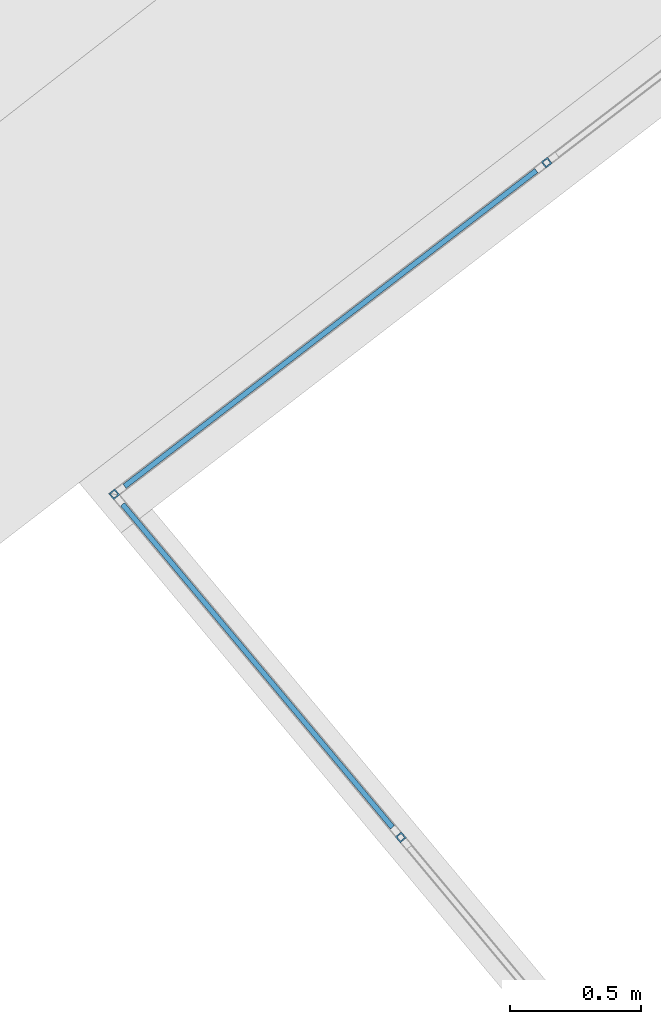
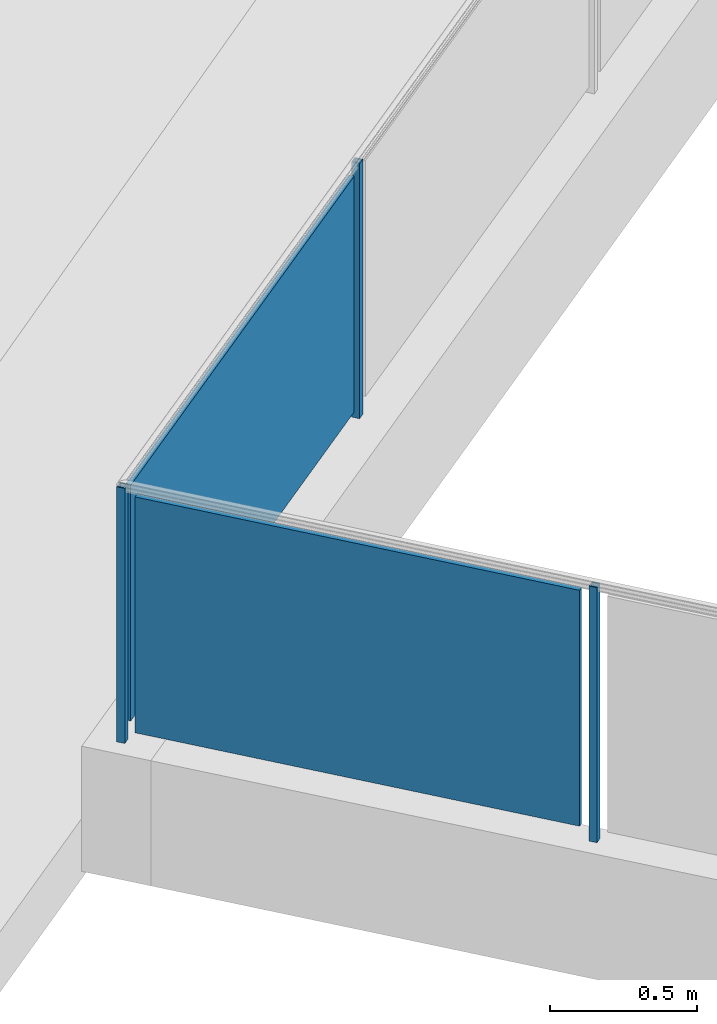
# One storey, part 42 of 75: 5 building element parts, 1 element without a shape of its own.
"""IFC4 building model written with IfcOpenShell, lengths in metres."""

from ifc_helpers import new_model, entity, si_unit, converted_unit, derived_unit, direction, frame, origin_with_axes, place, context, subcontext, project, spatial, polygons, material, type_object, element, aggregate, save


model = new_model("IFC4")

# Units and contexts
model_context = context("Model", 3, precision=1e-05, world=origin_with_axes(), true_north=direction((0.0, 1.0)))
body_context = subcontext(model_context, "Body", "Model", "MODEL_VIEW")
ifc_project = project(units=[si_unit("LENGTHUNIT", "METRE"), si_unit("AREAUNIT", "SQUARE_METRE"), si_unit("VOLUMEUNIT", "CUBIC_METRE"), converted_unit("PLANEANGLEUNIT", "DEGREE", entity("IfcPlaneAngleMeasure", 0.0174532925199), si_unit("PLANEANGLEUNIT", "RADIAN"), dimensions=[0, 0, 0, 0, 0, 0, 0]), converted_unit("TIMEUNIT", "Year", entity("IfcTimeMeasure", 31556926.0), si_unit("TIMEUNIT", "SECOND"), dimensions=[0, 0, 1, 0, 0, 0, 0]), si_unit("MASSUNIT", "GRAM", prefix="KILO"), si_unit("THERMODYNAMICTEMPERATUREUNIT", "DEGREE_CELSIUS"), si_unit("LUMINOUSINTENSITYUNIT", "LUMEN"), si_unit("ENERGYUNIT", "JOULE", prefix="MEGA"), derived_unit("THERMALCONDUCTANCEUNIT", [(si_unit("POWERUNIT", "WATT"), 1), (si_unit("LENGTHUNIT", "METRE"), -1), (si_unit("THERMODYNAMICTEMPERATUREUNIT", "KELVIN"), -1)]), derived_unit("SPECIFICHEATCAPACITYUNIT", [(si_unit("ENERGYUNIT", "JOULE"), 1), (si_unit("MASSUNIT", "GRAM", prefix="KILO"), -1), (si_unit("THERMODYNAMICTEMPERATUREUNIT", "KELVIN"), -1)]), derived_unit("MASSDENSITYUNIT", [(si_unit("MASSUNIT", "GRAM", prefix="KILO"), 1), (si_unit("VOLUMEUNIT", "CUBIC_METRE"), -1)])], contexts=[model_context])

# Site, building, storey
site_placement = place(None, frame((-0.00153261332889, -0.00661245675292, 0.0), z_axis=(0.0, 0.0, 1.0), x_axis=(1.0, 0.0, 0.0)))
site = spatial("IfcSite", under=ifc_project, at=site_placement, Name="Gelände", CompositionType="ELEMENT")
building_placement = place(site_placement, origin_with_axes())
building = spatial("IfcBuilding", under=site, at=building_placement, Name="Gebäude", CompositionType="ELEMENT")
storey_placement = place(building_placement, frame((0.0, 0.0, -0.22), z_axis=(0.0, 0.0, 1.0), x_axis=(1.0, 0.0, 0.0)))
storey = spatial("IfcBuildingStorey", under=building, at=storey_placement, Name="EG", CompositionType="ELEMENT", Elevation=-0.22)

# Railing, building element parts
railing_type = type_object("IfcRailingType", Name="Geländerart", PredefinedType="NOTDEFINED")
railing_placement = place(storey_placement, frame((0.180685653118, 26.4249004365, 0.523948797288), z_axis=(0.0, 0.0, 1.0), x_axis=(1.0, 0.0, 0.0)))
railing = element("IfcRailing", 1, at=railing_placement, inside=storey, type_object=railing_type, Name="Geländer - 001", PredefinedType="NOTDEFINED")
ifc_material_1 = material(Name="Aluminium")
building_element_part_1_placement = place(railing_placement, origin_with_axes())
building_element_part_1 = element("IfcBuildingElementPart", 2, at=building_element_part_1_placement, material=ifc_material_1, Name="Aluminium", PredefinedType="NOTDEFINED", context=body_context, shape_type="Tessellation", body=[
    polygons([(-3.23242881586, 4.00997102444, 0.0), (-3.25545269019, 3.99073820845, 0.0), (-3.25545269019, 3.99073820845, 1.06), (-3.23242881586, 4.00997102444, 1.06), (-3.21319599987, 3.98694715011, 0.0), (-3.2362198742, 3.96771433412, 0.0), (-3.23306065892, 4.00292824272, 0.0), (-3.24840990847, 3.99010636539, 0.0), (-3.23558803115, 3.97475711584, 0.0), (-3.22023878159, 3.98757899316, 0.0), (-3.2362198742, 3.96771433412, 1.06), (-3.21319599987, 3.98694715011, 1.06), (-3.23306065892, 4.00292824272, 1.06), (-3.22023878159, 3.98757899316, 1.06), (-3.23558803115, 3.97475711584, 1.06), (-3.24840990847, 3.99010636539, 1.06)], [[[1, 2, 3, 4]], [[1, 5, 6, 2], [7, 8, 9, 10]], [[2, 6, 11, 3]], [[4, 3, 11, 12], [13, 14, 15, 16]], [[5, 1, 4, 12]], [[6, 5, 12, 11]], [[8, 7, 13, 16]], [[9, 8, 16, 15]], [[10, 9, 15, 14]], [[7, 10, 14, 13]]], closed=True),
])
building_element_part_2_placement = place(railing_placement, origin_with_axes())
building_element_part_2 = element("IfcBuildingElementPart", 3, at=building_element_part_2_placement, material=ifc_material_1, Name="Aluminium", PredefinedType="NOTDEFINED", context=body_context, shape_type="Tessellation", body=[
    polygons([(-2.13513413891, 2.69638414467, 0.0), (-2.15815801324, 2.67715132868, 0.0), (-2.15815801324, 2.67715132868, 1.06), (-2.13513413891, 2.69638414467, 1.06), (-2.11590132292, 2.67336027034, 0.0), (-2.13892519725, 2.65412745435, 0.0), (-2.13576598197, 2.68934136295, 0.0), (-2.15111523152, 2.67651948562, 0.0), (-2.13829335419, 2.66117023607, 0.0), (-2.12294410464, 2.6739921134, 0.0), (-2.13892519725, 2.65412745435, 1.06), (-2.11590132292, 2.67336027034, 1.06), (-2.13576598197, 2.68934136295, 1.06), (-2.12294410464, 2.6739921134, 1.06), (-2.13829335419, 2.66117023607, 1.06), (-2.15111523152, 2.67651948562, 1.06)], [[[1, 2, 3, 4]], [[1, 5, 6, 2], [7, 8, 9, 10]], [[2, 6, 11, 3]], [[4, 3, 11, 12], [13, 14, 15, 16]], [[5, 1, 4, 12]], [[6, 5, 12, 11]], [[8, 7, 13, 16]], [[9, 8, 16, 15]], [[10, 9, 15, 14]], [[7, 10, 14, 13]]], closed=True),
])
ifc_material_2 = material(Name="Zaun")
building_element_part_3_placement = place(railing_placement, origin_with_axes())
building_element_part_3 = element("IfcBuildingElementPart", 4, at=building_element_part_3_placement, material=ifc_material_2, Name="Zaun", PredefinedType="NOTDEFINED", context=body_context, shape_type="Tessellation", body=[
    polygons([(-3.20994427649, 3.94405861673, 0.05), (-2.17675898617, 2.70721798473, 0.05), (-2.17675898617, 2.70721798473, 1.03), (-3.20994427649, 3.94405861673, 1.03), (-2.16140973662, 2.72003986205, 0.05), (-3.19459502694, 3.95688049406, 0.05), (-2.16140973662, 2.72003986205, 1.03), (-3.19459502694, 3.95688049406, 1.03)], [[[1, 2, 3, 4]], [[5, 2, 1, 6]], [[7, 3, 2, 5]], [[4, 3, 7, 8]], [[1, 4, 8, 6]], [[7, 5, 6, 8]]], closed=True),
])
building_element_part_4_placement = place(railing_placement, origin_with_axes())
building_element_part_4 = element("IfcBuildingElementPart", 5, at=building_element_part_4_placement, material=ifc_material_2, Name="Zaun", PredefinedType="NOTDEFINED", context=body_context, shape_type="Tessellation", body=[
    polygons([(-1.62435176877, 5.23592927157, 0.05), (-3.20073093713, 4.02720259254, 0.05), (-3.20073093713, 4.02720259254, 1.03), (-1.62435176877, 5.23592927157, 1.03), (-3.18856123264, 4.01133128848, 0.05), (-1.61218206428, 5.22005796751, 0.05), (-3.18856123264, 4.01133128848, 1.03), (-1.61218206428, 5.22005796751, 1.03)], [[[1, 2, 3, 4]], [[5, 2, 1, 6]], [[7, 3, 2, 5]], [[4, 3, 7, 8]], [[1, 4, 8, 6]], [[7, 5, 6, 8]]], closed=True),
])
building_element_part_5_placement = place(railing_placement, origin_with_axes())
building_element_part_5 = element("IfcBuildingElementPart", 6, at=building_element_part_5_placement, material=ifc_material_1, Name="Aluminium", PredefinedType="NOTDEFINED", context=body_context, shape_type="Tessellation", body=[
    polygons([(-1.55755789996, 5.2556416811, 0.0), (-1.5758124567, 5.27944863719, 0.0), (-1.5758124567, 5.27944863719, 1.06), (-1.55755789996, 5.2556416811, 1.06), (-1.58136485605, 5.23738712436, 0.0), (-1.59961941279, 5.26119408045, 0.0), (-1.5645681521, 5.25656708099, 0.0), (-1.57673785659, 5.27243838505, 0.0), (-1.59260916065, 5.26026868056, 0.0), (-1.58043945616, 5.2443973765, 0.0), (-1.59961941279, 5.26119408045, 1.06), (-1.58136485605, 5.23738712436, 1.06), (-1.5645681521, 5.25656708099, 1.06), (-1.58043945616, 5.2443973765, 1.06), (-1.59260916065, 5.26026868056, 1.06), (-1.57673785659, 5.27243838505, 1.06)], [[[1, 2, 3, 4]], [[1, 5, 6, 2], [7, 8, 9, 10]], [[2, 6, 11, 3]], [[4, 3, 11, 12], [13, 14, 15, 16]], [[5, 1, 4, 12]], [[6, 5, 12, 11]], [[8, 7, 13, 16]], [[9, 8, 16, 15]], [[10, 9, 15, 14]], [[7, 10, 14, 13]]], closed=True),
])
aggregate(railing, [building_element_part_1, building_element_part_2, building_element_part_3, building_element_part_4, building_element_part_5])

save(model, "model.ifc")
